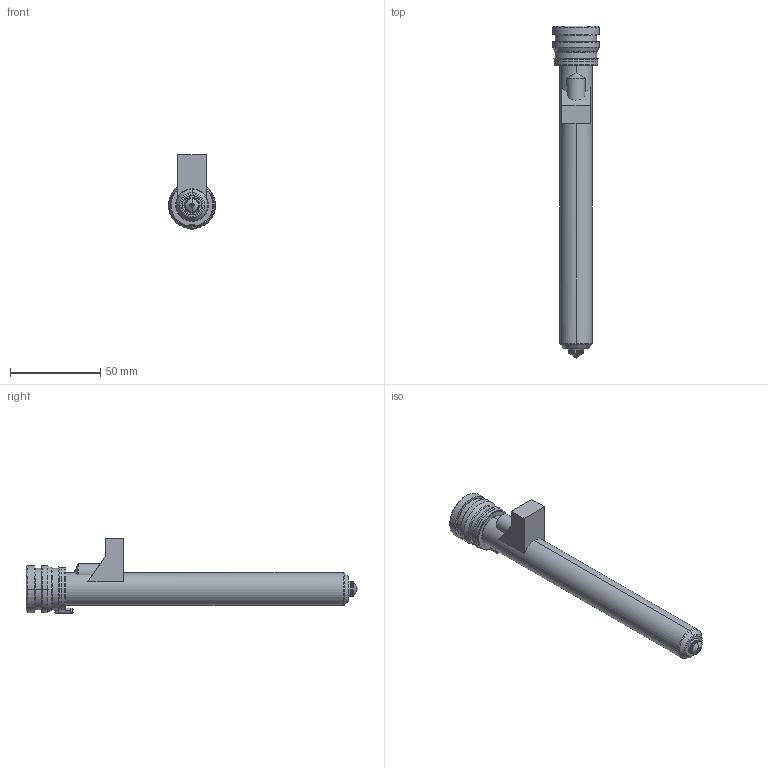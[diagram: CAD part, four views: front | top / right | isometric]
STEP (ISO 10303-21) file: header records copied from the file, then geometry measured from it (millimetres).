
FILE_DESCRIPTION((''),'2;1');
FILE_NAME('MPN-08-24-TS8-166-M','2026-02-05T13:25:10',('UPTIO'),('Thermoplay S.p.A.'),'CREO PARAMETRIC BY PTC INC, 2023494','CREO PARAMETRIC BY PTC INC, 2023494','');
FILE_SCHEMA(('CONFIG_CONTROL_DESIGN','SHAPE_APPEARANCE_LAYERS_GROUPS'));
Length unit declared in the file: millimetre
Products named in the file (1): MPN-08-24-TS8-166-M
Bounding box: 26 x 184 x 41.5 mm (x, y, z)
Volume: 34748.5 mm3; surface area: 46371.9 mm2
Topology: 2 solids, 5 shells, 532 faces, 1371 edges, 843 vertices
Faces by surface type: cylinder 172, plane 146, bspline 77, torus 62, cone 58, sphere 11, extrusion 6
Entity records: 27992 total; most frequent: CARTESIAN_POINT 12353, ORIENTED_EDGE 2720, DIRECTION 2456, EDGE_CURVE 1360, AXIS2_PLACEMENT_3D 960, VERTEX_POINT 843, EDGE_LOOP 561, VECTOR 536
